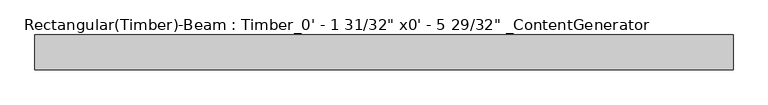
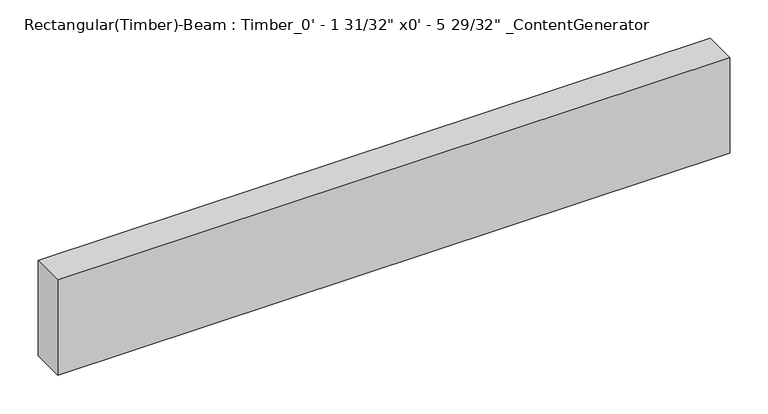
"""IFC4 building model written with IfcOpenShell, lengths in millimetres: beam geometry."""

from ifc_helpers import new_model, si_unit, frame, origin, place, context, project, spatial, polyline, outline, extrude, source, transform, mapped, element, save


def beam_0c8f00b2(model_context):
    return source(origin(), model_context, "Body", "SweptSolid", [
        extrude(outline(polyline([(506.158186, 25.4), (506.158186, -25.4), (-506.158186, -25.4), (-506.158186, 25.4), (506.158186, 25.4)])), frame((0.0, 0.0, -76.2), z_axis=(0.0, 0.0, 1.0), x_axis=(1.0, 0.0, 0.0)), (0.0, 0.0, 1.0), 152.4),
    ])


if __name__ == "__main__":
    model = new_model("IFC4")
    model_context = context("Model", 3, world=origin())
    ifc_project = project(units=[si_unit("LENGTHUNIT", "METRE", prefix="MILLI")], contexts=[model_context])
    site = spatial("IfcSite", under=ifc_project)
    building = spatial("IfcBuilding", under=site)
    placement = place(None, origin())
    beam_shape = beam_0c8f00b2(model_context)
    element("IfcBeam", 1, ObjectType="Rectangular(Timber)-Beam : Timber_0' - 1 31/32\" x0' - 5 29/32\" _ContentGenerator", at=placement, inside=building, context=model_context, shape_type="MappedRepresentation", body=[
        mapped(beam_shape, transform((0.0, 0.0, 0.0), x_axis=(1.0, 0.0, 0.0), y_axis=(0.0, 1.0, 0.0), z_axis=(0.0, 0.0, 1.0))),
    ])
    save(model, "model.ifc")
